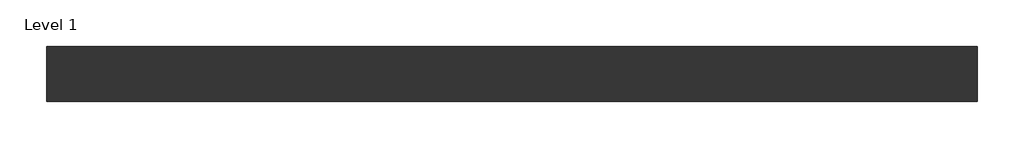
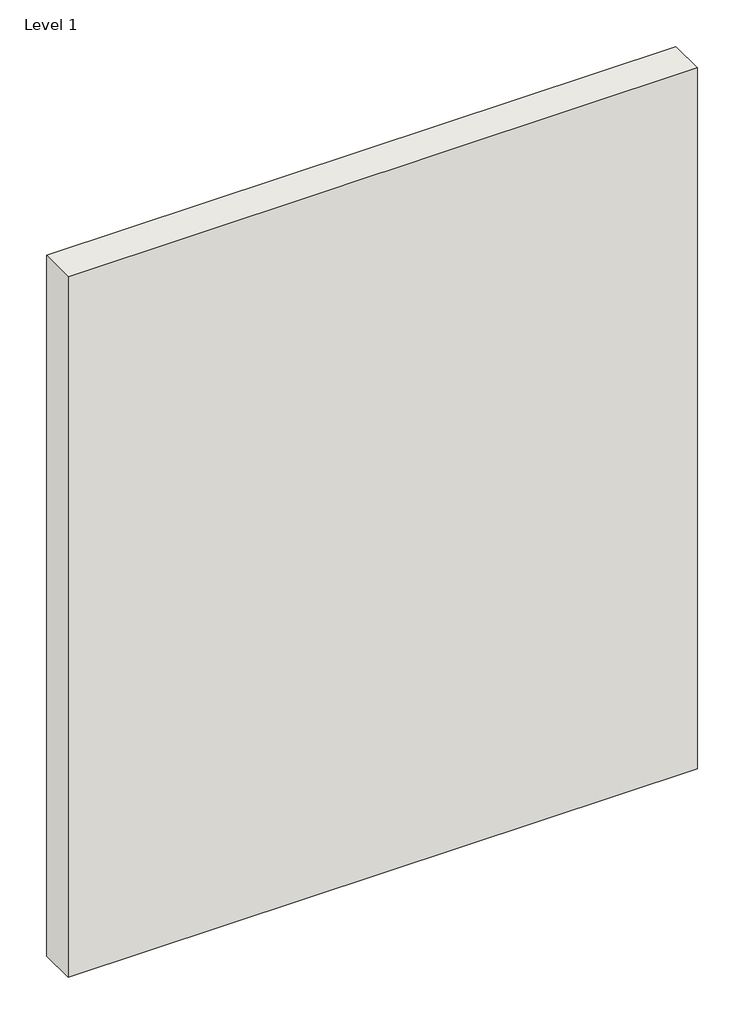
# One storey: 1 wall.
"""IFC4 building model written with IfcOpenShell, lengths in millimetres."""

from ifc_helpers import new_model, si_unit, origin, origin_with_axes, place, context, project, spatial, polyline, outline, extrude, element, save

model = new_model("IFC4")

# Units and contexts
model_context = context("Model", 3, world=origin())
ifc_project = project(units=[si_unit("LENGTHUNIT", "METRE", prefix="MILLI")], contexts=[model_context])

# Site, building, storey
site = spatial("IfcSite", under=ifc_project)
building = spatial("IfcBuilding", under=site)
storey = spatial("IfcBuildingStorey", under=building, Name="Level 1", Elevation=0.0)

# Wall
placement = place(None, origin())
element("IfcWall", 1, ObjectType="Interior-Steel Frame-Double Stud-CSR 1390-201mm", at=placement, inside=storey, context=model_context, shape_type="SweptSolid", body=[
    extrude(outline(polyline([(-1260.0432545, -1281.7697552), (2139.9567455, -1281.7697552), (2139.9567455, -1482.7697552), (-1260.0432545, -1482.7697552), (-1260.0432545, -1281.7697552)])), origin_with_axes(), (0.0, 0.0, 1.0), 4000.0),
])

save(model, "model.ifc")
